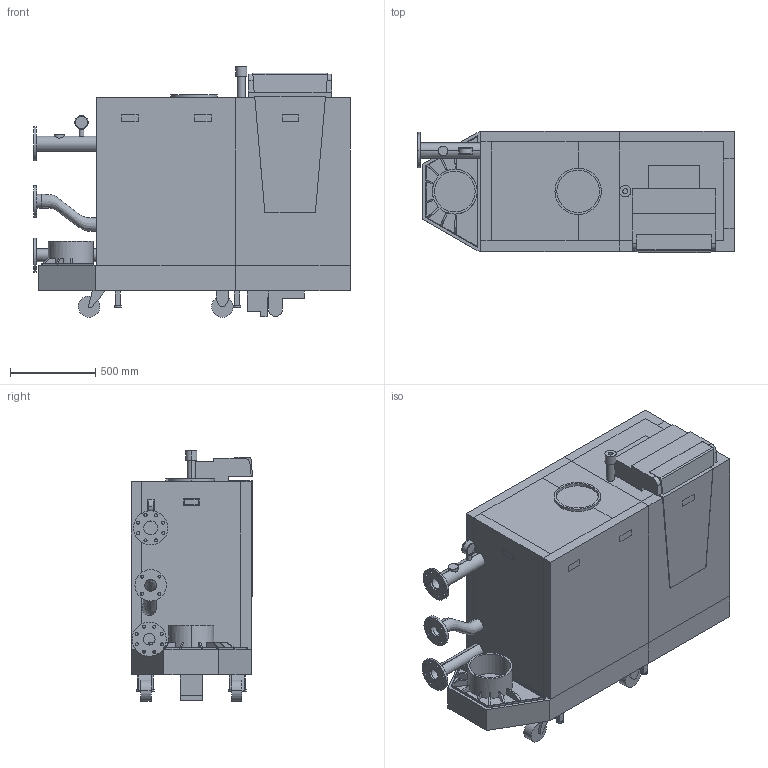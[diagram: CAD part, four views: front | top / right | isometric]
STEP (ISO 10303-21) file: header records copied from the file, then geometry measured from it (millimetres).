
FILE_DESCRIPTION (( 'STEP AP203' ), '1' );
FILE_NAME ('gas 310 ECO pro 5-7 leden.STEP', '2012-02-06T09:59:51', ( 'PICCA04' ), ( 'Microsoft' ), 'SwSTEP 2.0', 'SolidWorks 2011', '' );
FILE_SCHEMA (( 'CONFIG_CONTROL_DESIGN' ));
Length unit declared in the file: millimetre
Products named in the file (1): gas 310 ECO pro 5-7 leden
Bounding box: 1855 x 710 x 1469.5 mm (x, y, z)
Volume: 1242785199 mm3; surface area: 9393704.9 mm2
Topology: 1 solids, 1 shells, 394 faces, 985 edges, 634 vertices
Faces by surface type: plane 268, cylinder 122, bspline 4
Entity records: 18891 total; most frequent: CARTESIAN_POINT 9136, DIRECTION 2020, ORIENTED_EDGE 1970, EDGE_CURVE 985, AXIS2_PLACEMENT_3D 674, VECTOR 672, LINE 672, VERTEX_POINT 634
